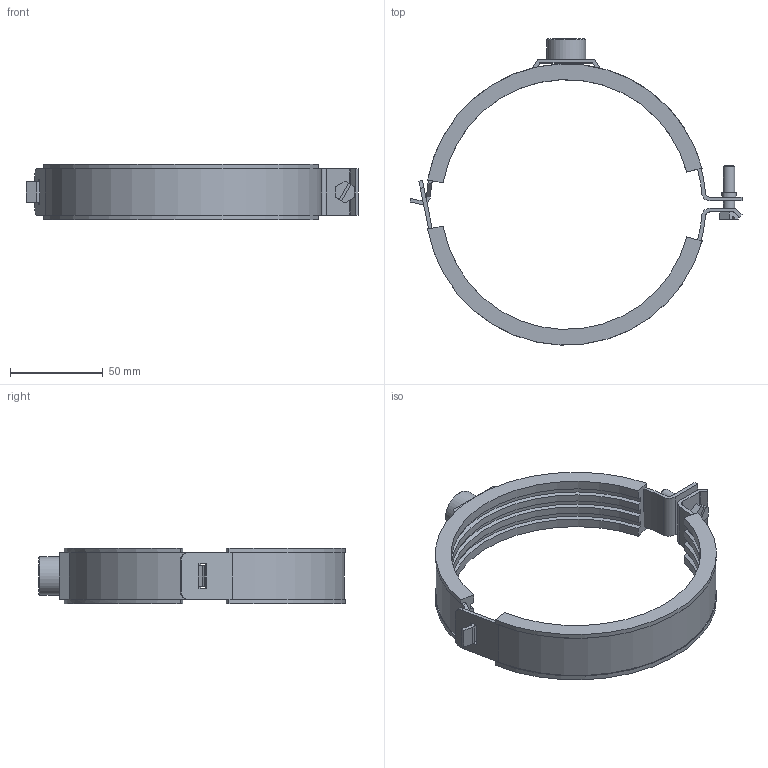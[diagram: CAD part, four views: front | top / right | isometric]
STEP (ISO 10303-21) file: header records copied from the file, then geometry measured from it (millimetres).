
FILE_DESCRIPTION(/* description */ (''),/* implementation_level */ '2;1');
FILE_NAME(/* name */ 'H:\Geberit-Teile\Export\Rohrschelle gedämmt ART\stp\312813.stp',/* time_stamp */ '2014-04-15T15:32:06+02:00',/* author */ ('seihe2'),/* organization */ (''),/* preprocessor_version */ 'ST-DEVELOPER v15.2',/* originating_system */ 'Autodesk Inventor 2014',/* authorisation */ '');
FILE_SCHEMA (('AUTOMOTIVE_DESIGN { 1 0 10303 214 3 1 1 }'));
Length unit declared in the file: millimetre
Products named in the file (1): 312813
Bounding box: 179.38 x 165.43 x 30 mm (x, y, z)
Volume: 95807.8 mm3; surface area: 44477 mm2
Topology: 1 solids, 1 shells, 133 faces, 364 edges, 236 vertices
Faces by surface type: plane 75, cylinder 44, cone 14
Full cylindrical faces by diameter (mm): 6 x2, 7.75 x1, 10 x1, 20.95 x1
Entity records: 4342 total; most frequent: DIRECTION 735, CARTESIAN_POINT 734, ORIENTED_EDGE 712, EDGE_CURVE 356, AXIS2_PLACEMENT_3D 246, LINE 243, VECTOR 243, VERTEX_POINT 235
